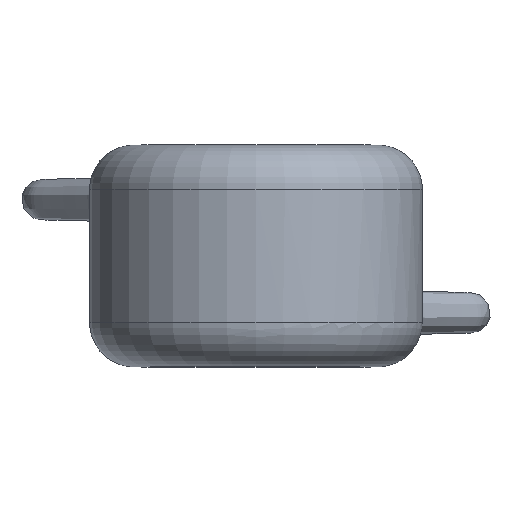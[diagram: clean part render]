
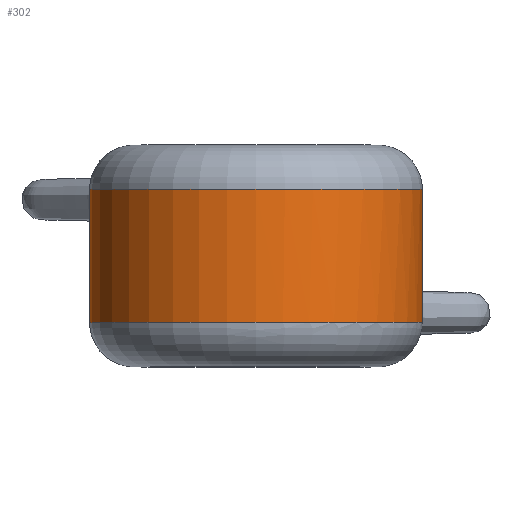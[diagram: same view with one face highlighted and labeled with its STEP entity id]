
A CAD part, top view. The second image highlights one B-rep face of the part: STEP entity #302.
In plain terms, the highlighted cylindrical face has radius 3.75 mm (diameter 7.5 mm), a full revolution.
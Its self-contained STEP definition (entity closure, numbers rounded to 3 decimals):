
#24=B_SPLINE_CURVE_WITH_KNOTS('',3,(#903,#904,#905,#906,#907,#908,#909,
#910,#911,#912),.UNSPECIFIED.,.F.,.F.,(4,1,1,1,1,1,1,4),(-0.237,
-0.203,-0.169,-0.135,-0.101,
-0.051,-0.034,0.),.UNSPECIFIED.);
#26=B_SPLINE_CURVE_WITH_KNOTS('',3,(#980,#981,#982,#983,#984,#985,#986,
#987,#988,#989),.UNSPECIFIED.,.F.,.F.,(4,1,1,1,1,1,1,4),(-0.237,
-0.203,-0.169,-0.135,-0.101,
-0.051,-0.034,0.),.UNSPECIFIED.);
#72=FACE_OUTER_BOUND('',#92,.T.);
#92=EDGE_LOOP('',(#241,#242,#243,#244,#245,#246,#247,#248,#249,#250));
#105=LINE('',#974,#108);
#108=VECTOR('',#407,3.75);
#120=CIRCLE('',#347,3.75);
#121=CIRCLE('',#348,3.75);
#122=CIRCLE('',#349,3.75);
#123=CIRCLE('',#351,3.75);
#124=CIRCLE('',#352,3.75);
#125=CIRCLE('',#353,3.75);
#143=VERTEX_POINT('',#899);
#144=VERTEX_POINT('',#901);
#147=VERTEX_POINT('',#966);
#148=VERTEX_POINT('',#969);
#149=VERTEX_POINT('',#973);
#150=VERTEX_POINT('',#975);
#151=VERTEX_POINT('',#977);
#152=VERTEX_POINT('',#979);
#176=EDGE_CURVE('',#143,#144,#24,.T.);
#181=EDGE_CURVE('',#144,#147,#120,.T.);
#182=EDGE_CURVE('',#148,#143,#121,.T.);
#183=EDGE_CURVE('',#147,#148,#122,.T.);
#184=EDGE_CURVE('',#148,#149,#105,.T.);
#185=EDGE_CURVE('',#149,#150,#123,.T.);
#186=EDGE_CURVE('',#150,#151,#124,.T.);
#187=EDGE_CURVE('',#151,#152,#26,.T.);
#188=EDGE_CURVE('',#152,#149,#125,.T.);
#241=ORIENTED_EDGE('',*,*,#176,.T.);
#242=ORIENTED_EDGE('',*,*,#181,.T.);
#243=ORIENTED_EDGE('',*,*,#183,.T.);
#244=ORIENTED_EDGE('',*,*,#184,.T.);
#245=ORIENTED_EDGE('',*,*,#185,.T.);
#246=ORIENTED_EDGE('',*,*,#186,.T.);
#247=ORIENTED_EDGE('',*,*,#187,.T.);
#248=ORIENTED_EDGE('',*,*,#188,.T.);
#249=ORIENTED_EDGE('',*,*,#184,.F.);
#250=ORIENTED_EDGE('',*,*,#182,.T.);
#292=CYLINDRICAL_SURFACE('',#350,3.75);
#302=ADVANCED_FACE('',(#72),#292,.T.);
#347=AXIS2_PLACEMENT_3D('',#968,#399,#400);
#348=AXIS2_PLACEMENT_3D('',#970,#401,#402);
#349=AXIS2_PLACEMENT_3D('',#971,#403,#404);
#350=AXIS2_PLACEMENT_3D('',#972,#405,#406);
#351=AXIS2_PLACEMENT_3D('',#976,#408,#409);
#352=AXIS2_PLACEMENT_3D('',#978,#410,#411);
#353=AXIS2_PLACEMENT_3D('',#990,#412,#413);
#399=DIRECTION('center_axis',(0.,-1.,0.));
#400=DIRECTION('ref_axis',(-1.,0.,0.));
#401=DIRECTION('center_axis',(0.,-1.,0.));
#402=DIRECTION('ref_axis',(-1.,0.,0.));
#403=DIRECTION('center_axis',(0.,-1.,0.));
#404=DIRECTION('ref_axis',(-1.,0.,0.));
#405=DIRECTION('center_axis',(0.,-1.,0.));
#406=DIRECTION('ref_axis',(1.,0.,0.));
#407=DIRECTION('',(0.,-1.,0.));
#408=DIRECTION('center_axis',(0.,1.,0.));
#409=DIRECTION('ref_axis',(-1.,0.,0.));
#410=DIRECTION('center_axis',(0.,1.,0.));
#411=DIRECTION('ref_axis',(-1.,0.,0.));
#412=DIRECTION('center_axis',(0.,1.,0.));
#413=DIRECTION('ref_axis',(-1.,0.,0.));
#899=CARTESIAN_POINT('',(-3.474,1.5,-1.412));
#901=CARTESIAN_POINT('',(-2.909,1.5,-2.366));
#903=CARTESIAN_POINT('Ctrl Pts',(-3.474,1.5,-1.412));
#904=CARTESIAN_POINT('Ctrl Pts',(-3.491,1.397,-1.371));
#905=CARTESIAN_POINT('Ctrl Pts',(-3.5,1.162,-1.346));
#906=CARTESIAN_POINT('Ctrl Pts',(-3.439,0.853,-1.501));
#907=CARTESIAN_POINT('Ctrl Pts',(-3.314,0.677,-1.765));
#908=CARTESIAN_POINT('Ctrl Pts',(-3.111,0.667,-2.109));
#909=CARTESIAN_POINT('Ctrl Pts',(-2.938,0.896,-2.332));
#910=CARTESIAN_POINT('Ctrl Pts',(-2.872,1.222,-2.412));
#911=CARTESIAN_POINT('Ctrl Pts',(-2.883,1.396,-2.399));
#912=CARTESIAN_POINT('Ctrl Pts',(-2.909,1.5,-2.366));
#966=CARTESIAN_POINT('',(0.,1.5,-3.75));
#968=CARTESIAN_POINT('Origin',(0.,1.5,0.));
#969=CARTESIAN_POINT('',(-3.75,1.5,0.));
#970=CARTESIAN_POINT('Origin',(0.,1.5,0.));
#971=CARTESIAN_POINT('Origin',(0.,1.5,0.));
#972=CARTESIAN_POINT('Origin',(0.,0.,0.));
#973=CARTESIAN_POINT('',(-3.75,-1.5,0.));
#974=CARTESIAN_POINT('',(-3.75,0.,0.));
#975=CARTESIAN_POINT('',(0.,-1.5,3.75));
#976=CARTESIAN_POINT('Origin',(0.,-1.5,0.));
#977=CARTESIAN_POINT('',(3.474,-1.5,-1.412));
#978=CARTESIAN_POINT('Origin',(0.,-1.5,0.));
#979=CARTESIAN_POINT('',(2.909,-1.5,-2.366));
#980=CARTESIAN_POINT('Ctrl Pts',(3.474,-1.5,-1.412));
#981=CARTESIAN_POINT('Ctrl Pts',(3.491,-1.397,-1.371));
#982=CARTESIAN_POINT('Ctrl Pts',(3.5,-1.162,-1.346));
#983=CARTESIAN_POINT('Ctrl Pts',(3.439,-0.853,-1.501));
#984=CARTESIAN_POINT('Ctrl Pts',(3.314,-0.677,-1.765));
#985=CARTESIAN_POINT('Ctrl Pts',(3.111,-0.667,-2.109));
#986=CARTESIAN_POINT('Ctrl Pts',(2.938,-0.896,-2.332));
#987=CARTESIAN_POINT('Ctrl Pts',(2.872,-1.222,-2.412));
#988=CARTESIAN_POINT('Ctrl Pts',(2.883,-1.396,-2.399));
#989=CARTESIAN_POINT('Ctrl Pts',(2.909,-1.5,-2.366));
#990=CARTESIAN_POINT('Origin',(0.,-1.5,0.));
